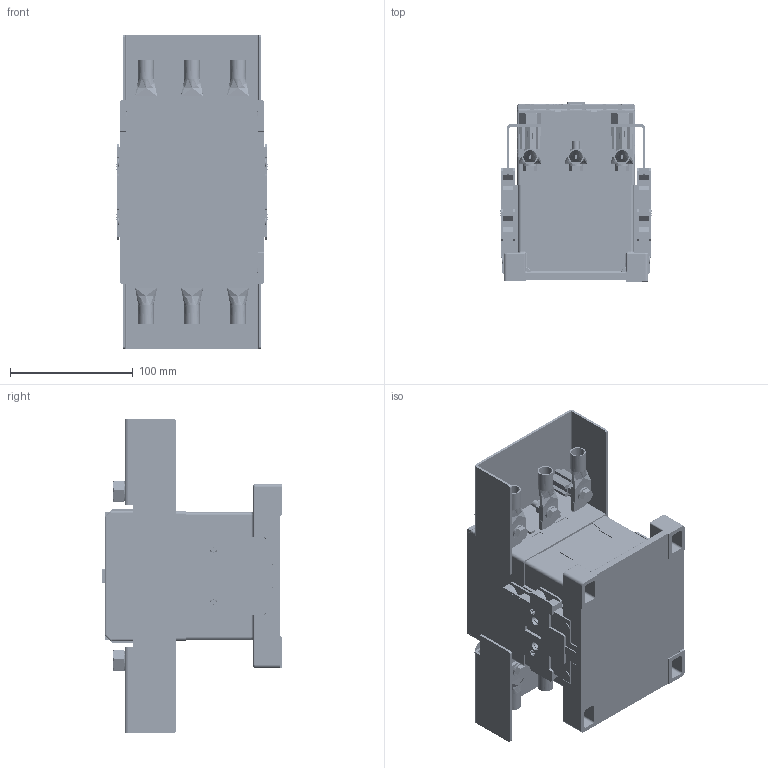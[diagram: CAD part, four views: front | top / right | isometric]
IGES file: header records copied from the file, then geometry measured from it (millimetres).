
Start section: SolidWorks IGES file using analytic representation for surfaces
Global section: file name: Q:\GROUPS\BR_SC_JGS_WA_TECNICO\ENG\Usuarios\Rodrigob\conversão\contatores\Montagem\CWM112+BMP CWM150\CWM112+BMP CWM150.IGS; native system: SolidWorks 2009; preprocessor: SolidWorks 2009; author: rodrigob; date: 111013.132642; units: millimetre
Bounding box: 124.2 x 146 x 256 mm (x, y, z)
Surface area: 301484.7 mm2 (no closed solid volume)
Topology: 0 solids, 0 shells, 3365 faces, 38597 edges, 38595 vertices
Faces by surface type: bspline 2123, revolution 1242
